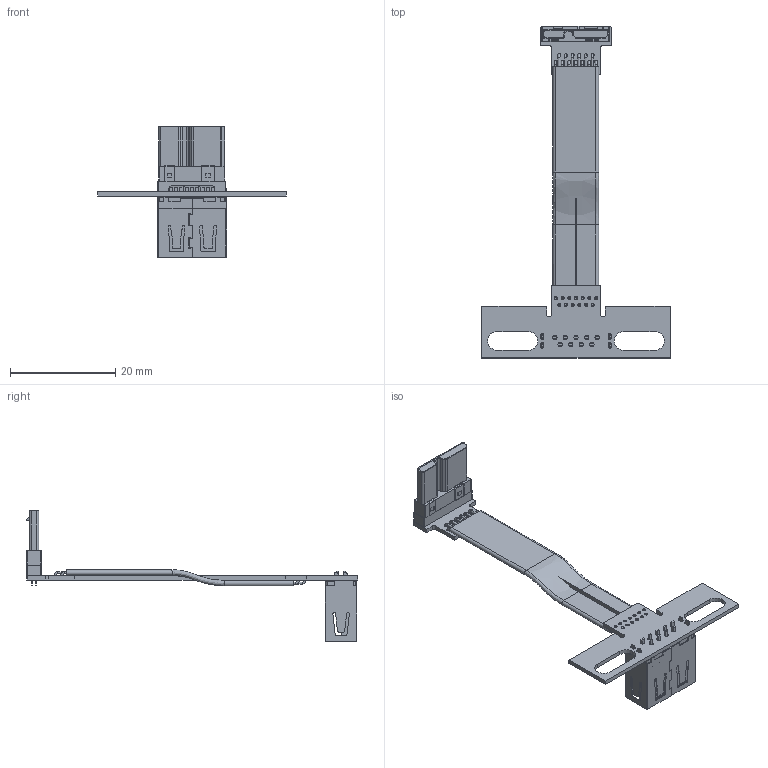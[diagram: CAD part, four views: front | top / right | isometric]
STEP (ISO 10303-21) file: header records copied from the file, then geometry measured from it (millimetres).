
FILE_DESCRIPTION(('Open CASCADE Model'),'2;1');
FILE_NAME('Open CASCADE Shape Model','2022-04-17T15:31:54',('Author'),( 'Open CASCADE'),'Open CASCADE STEP processor 6.8','Open CASCADE 6.8' ,'Unknown');
FILE_SCHEMA(('AUTOMOTIVE_DESIGN { 1 0 10303 214 1 1 1 1 }'));
Length unit declared in the file: millimetre
Products named in the file (53): PCB; Board; Open CASCADE STEP translator 6.8 1.1.1; Designator22; micro_usb_3.0; _1; USB_20211129_(1); Free-Models; cable13-US1A
Assembly tree (52 placements, depth 3):
  PCB
    Board
      Open CASCADE STEP translator 6.8 1.1.1
    Designator22
      micro_usb_3.0
    _1
      USB_20211129_(1)
      USB_20211129_(1)
      USB_20211129_(1)
      USB_20211129_(1)
      USB_20211129_(1)
      USB_20211129_(1)
      USB_20211129_(1)
      USB_20211129_(1)
      USB_20211129_(1)
      USB_20211129_(1)
      USB_20211129_(1)
      USB_20211129_(1)
      USB_20211129_(1)
      USB_20211129_(1)
      USB_20211129_(1)
      USB_20211129_(1)
      USB_20211129_(1)
      USB_20211129_(1)
      USB_20211129_(1)
    Free-Models
      cable13-US1A
      cable13-US1A
      cable13-US1A
      cable13-US1A
      cable13-US1A
      cable13-US1A
      cable13-US1A
      cable13-US1A
      cable13-US1A
      cable13-US1A
      cable13-US1A
      cable13-US1A
      cable13-US1A
      cable13-US1A
      cable13-US1A
      cable13-US1A
      cable13-US1A
      cable13-US1A
      cable13-US1A
      cable13-US1A
      cable13-US1A
      cable13-US1A
      cable13-US1A
      cable13-US1A
      cable13-US1A
      cable13-US1A
      cable13-US1A
Bounding box: 35.78 x 62.92 x 24.72 mm (x, y, z)
Volume: 1356.4 mm3; surface area: 4412.6 mm2
Topology: 48 solids, 48 shells, 1035 faces, 2663 edges, 1745 vertices
Faces by surface type: plane 612, cylinder 358, bspline 33, torus 26, extrusion 6
Full cylindrical faces by diameter (mm): 0.4 x59, 0.45 x10, 0.58 x13, 0.6 x13, 0.8 x9
Entity records: 42171 total; most frequent: CARTESIAN_POINT 7121, DIRECTION 5412, ORIENTED_EDGE 5326, EDGE_CURVE 2663, AXIS2_PLACEMENT_3D 1813, VECTOR 1786, LINE 1780, VERTEX_POINT 1745
